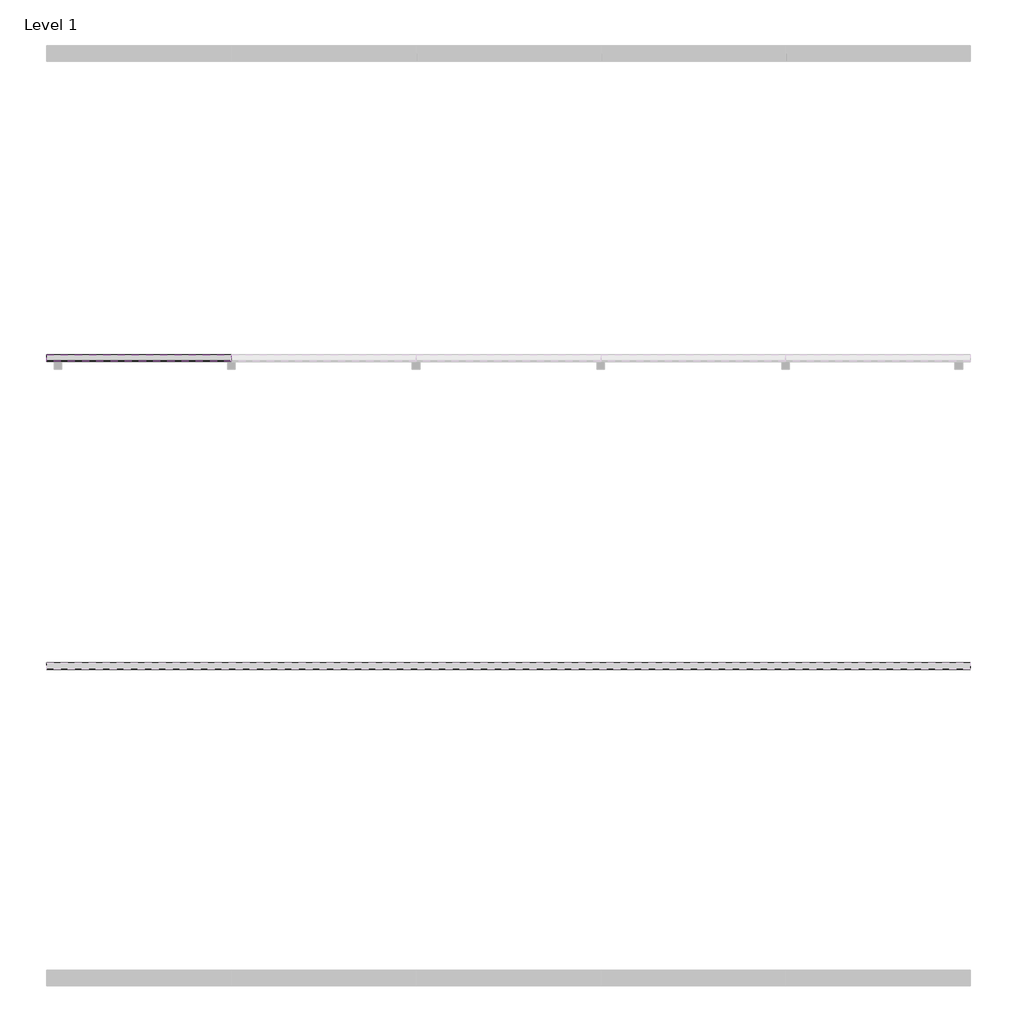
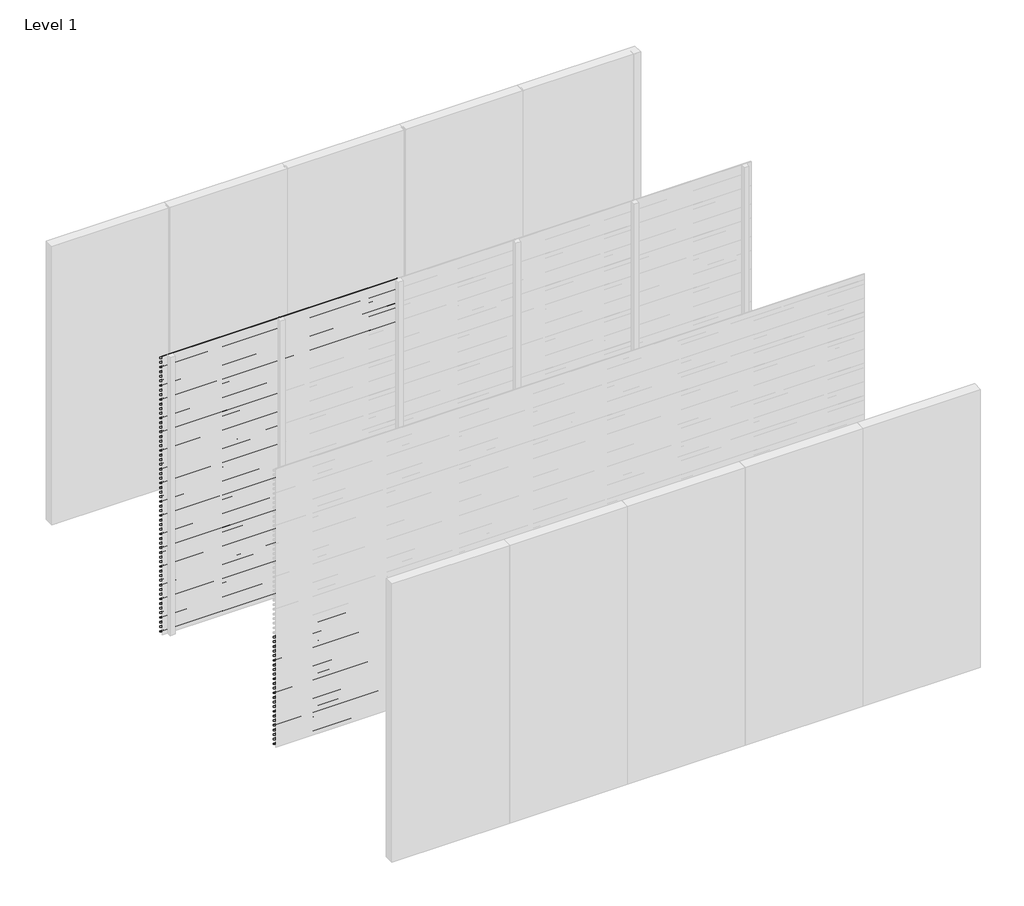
# One storey, part 6 of 16: 94 proxies.
"""IFC4 building model written with IfcOpenShell, lengths in millimetres."""

import ifcopenshell
import ifcopenshell.guid

model = None  # the IFC model being written
_history = None  # IfcOwnerHistory: only IFC2X3 demands one
_inside = {}  # id of a spatial element -> (the spatial element, [elements in it])
_under = {}  # id of a project, library or spatial element -> (it, [spatial elements below it])
_declared = {}  # id of a project -> (the project, [libraries it declares])
_typed = {}  # id of a type object -> (the type object, [elements of that type])
_made_of = {}  # id of a material, layer set ... -> (it, [elements and type objects made of it])


def new_model(schema):
    """Start an empty IFC model of exactly this schema.

    Asked for "IFC4X3", IfcOpenShell would pick the latest addendum, in which some entities
    have other attributes; the version numbers below select the first issue.
    IFC2X3 requires an IfcOwnerHistory on every rooted entity: one is made here for all.
    """
    global model, _history
    if schema == "IFC4X3":
        model = ifcopenshell.file(schema_version=(4, 3, 0, 0))
    else:
        model = ifcopenshell.file(schema=schema)
    _inside.clear()
    _under.clear()
    _declared.clear()
    _typed.clear()
    _made_of.clear()
    _history = None
    if model.schema == "IFC2X3":
        org = make("IfcOrganization", Name="unknown")
        user = make(
            "IfcPersonAndOrganization",
            ThePerson=make("IfcPerson", FamilyName="unknown"),
            TheOrganization=org,
        )
        app = make(
            "IfcApplication",
            ApplicationDeveloper=org,
            Version="unknown",
            ApplicationFullName="unknown",
            ApplicationIdentifier="unknown",
        )
        _history = make(
            "IfcOwnerHistory",
            OwningUser=user,
            OwningApplication=app,
            ChangeAction="ADDED",
            CreationDate=0,
        )
    return model


def make(cls, **values):
    """One entity of the class cls with the attributes given. An attribute that is None is left unset."""
    return model.create_entity(
        cls, **{name: value for name, value in values.items() if value is not None}
    )


def rooted(cls, **values):
    """An entity with a GlobalId (a new one), such as an element, a storey or a relation."""
    return make(cls, GlobalId=ifcopenshell.guid.new(), OwnerHistory=_history, **values)


def si_unit(unit_type, name, prefix=None):
    """IfcSIUnit, for example si_unit("LENGTHUNIT", "METRE", prefix="MILLI")."""
    return make("IfcSIUnit", UnitType=unit_type, Prefix=prefix, Name=name)


def assignment(units):
    """IfcUnitAssignment: the units of a project."""
    return None if units is None else make("IfcUnitAssignment", Units=units)


def point(xyz):
    """IfcCartesianPoint."""
    return None if xyz is None else make("IfcCartesianPoint", Coordinates=xyz)


def direction(xyz):
    """IfcDirection."""
    return None if xyz is None else make("IfcDirection", DirectionRatios=xyz)


def frame(location, z_axis=None, x_axis=None):
    """IfcAxis2Placement3D, a coordinate frame: its origin and axes. An axis left out is left unset."""
    return make(
        "IfcAxis2Placement3D",
        Location=point(location),
        Axis=direction(z_axis),
        RefDirection=direction(x_axis),
    )


def origin():
    """The frame at (0, 0, 0) with its axes left unset."""
    return frame((0.0, 0.0, 0.0))


def place(relative_to, where):
    """IfcLocalPlacement: puts the frame where relative to a parent placement (None: the world)."""
    return make(
        "IfcLocalPlacement", PlacementRelTo=relative_to, RelativePlacement=where
    )


def context(
    kind, dimensions, precision=None, world=None, true_north=None, identifier=None
):
    """IfcGeometricRepresentationContext, for example the 3D "Model" context."""
    return make(
        "IfcGeometricRepresentationContext",
        ContextIdentifier=identifier,
        ContextType=kind,
        CoordinateSpaceDimension=dimensions,
        Precision=precision,
        WorldCoordinateSystem=world,
        TrueNorth=true_north,
    )


def project(units=None, contexts=None):
    """IfcProject with its units and contexts."""
    return rooted(
        "IfcProject",
        Name="project",
        RepresentationContexts=contexts,
        UnitsInContext=assignment(units),
    )


def spatial(cls, under=None, at=None, **own):
    """A site, building, storey or space (cls), placed at a placement, below another one or the project."""
    s = rooted(cls, ObjectPlacement=at, **own)
    if under is not None:
        _under.setdefault(under.id(), (under, []))[1].append(s)
    return s


def polyline(points):
    """IfcPolyline through the points."""
    return make("IfcPolyline", Points=[point(p) for p in points])


def outline(outer, holes=None, kind="AREA"):
    """IfcArbitraryClosedProfileDef: a profile drawn as a closed curve; with holes, ...WithVoids."""
    if holes is None:
        return make("IfcArbitraryClosedProfileDef", ProfileType=kind, OuterCurve=outer)
    return make(
        "IfcArbitraryProfileDefWithVoids",
        ProfileType=kind,
        OuterCurve=outer,
        InnerCurves=holes,
    )


def extrude(swept, where, along, depth):
    """IfcExtrudedAreaSolid: the profile swept, set in the frame where, extruded along a direction by depth."""
    return make(
        "IfcExtrudedAreaSolid",
        SweptArea=swept,
        Position=where,
        ExtrudedDirection=direction(along),
        Depth=depth,
    )


def shape(context_of_items, identifier, shape_type, items):
    """IfcShapeRepresentation: the items that make up one representation, for example the "Body"."""
    return make(
        "IfcShapeRepresentation",
        ContextOfItems=context_of_items,
        RepresentationIdentifier=identifier,
        RepresentationType=shape_type,
        Items=items,
    )


def made_of(thing, what):
    """Note that an element or type object is made of a material, layer set ...; save() writes the relation."""
    if what is not None:
        _made_of.setdefault(what.id(), (what, []))[1].append(thing)
    return thing


def element(
    cls,
    number,
    at=None,
    inside=None,
    cuts=None,
    type_object=None,
    material=None,
    context=None,
    identifier="Body",
    shape_type=None,
    held_by="IfcProductDefinitionShape",
    body=None,
    shapes=None,
    **own,
):
    """One element of the class cls, such as IfcWall. Its Tag is "e" and its number.

    at: its placement. inside: the storey or other place that contains it. cuts: it is an
    opening in that element (IfcRelVoidsElement). A single representation is given by context,
    identifier, shape_type and body (its items); several are given by shapes. held_by: the class
    of the entity that holds the representations. save() writes the other relations.
    """
    e = rooted(cls, Tag="e%d" % number, ObjectPlacement=at, **own)
    if body is not None:
        shapes = [shape(context, identifier, shape_type, body)]
    if shapes is not None:
        e.Representation = make(held_by, Representations=shapes)
    if inside is not None:
        _inside.setdefault(inside.id(), (inside, []))[1].append(e)
    if cuts is not None:
        rooted(
            "IfcRelVoidsElement", RelatingBuildingElement=cuts, RelatedOpeningElement=e
        )
    if type_object is not None:
        _typed.setdefault(type_object.id(), (type_object, []))[1].append(e)
    return made_of(e, material)


def aggregate(whole, parts):
    """IfcRelAggregates: a whole, such as a stair, and the parts it consists of."""
    return rooted("IfcRelAggregates", RelatingObject=whole, RelatedObjects=parts)


def save(model, path):
    """Write the relations noted so far, then the file.

    IfcRelAggregates (storeys below a building ...), IfcRelContainedInSpatialStructure (elements
    in a storey), IfcRelDefinesByType, IfcRelAssociatesMaterial and IfcRelDeclares: one each for
    every whole, place, type object, material and project.
    """
    for whole, parts in _under.values():
        aggregate(whole, parts)
    for where, things in _inside.values():
        rooted(
            "IfcRelContainedInSpatialStructure",
            RelatedElements=things,
            RelatingStructure=where,
        )
    for kind, things in _typed.values():
        rooted("IfcRelDefinesByType", RelatedObjects=things, RelatingType=kind)
    for what, things in _made_of.values():
        rooted("IfcRelAssociatesMaterial", RelatedObjects=things, RelatingMaterial=what)
    for by, libraries in _declared.values():
        rooted("IfcRelDeclares", RelatingContext=by, RelatedDefinitions=libraries)
    model.write(path)


model = new_model("IFC4")

# Units and contexts
model_context = context("Model", 3, world=origin())
ifc_project = project(units=[si_unit("LENGTHUNIT", "METRE", prefix="MILLI")], contexts=[model_context])

# Site, building, storey
site = spatial("IfcSite", under=ifc_project)
building = spatial("IfcBuilding", under=site)
storey = spatial("IfcBuildingStorey", under=building, Name="Level 1", Elevation=0.0)

# Proxies
placement = place(None, origin())
element("IfcBuildingElementProxy", 1, Name="Wall Sweeps", at=placement, inside=storey, context=model_context, shape_type="SweptSolid", body=[
    extrude(outline(polyline([(-11995.0, 3000.0), (-11995.0, 2989.6352854), (-11954.0, 2965.0), (-11954.0, 2950.0), (-11997.0, 2975.8370066), (-11997.0, 3000.0), (-11995.0, 3000.0)])), frame((0.0, 0.0, 0.0), z_axis=(1.0, 0.0, 0.0), x_axis=(0.0, 1.0, 0.0)), (0.0, 0.0, 1.0), 1200.0),
])
element("IfcBuildingElementProxy", 2, Name="Wall Sweeps", at=placement, inside=storey, context=model_context, shape_type="SweptSolid", body=[
    extrude(outline(polyline([(-11995.0, 2950.0), (-11995.0, 2939.6352854), (-11954.0, 2915.0), (-11954.0, 2900.0), (-11997.0, 2925.8370066), (-11997.0, 2950.0), (-11995.0, 2950.0)])), frame((0.0, 0.0, 0.0), z_axis=(1.0, 0.0, 0.0), x_axis=(0.0, 1.0, 0.0)), (0.0, 0.0, 1.0), 1200.0),
])
element("IfcBuildingElementProxy", 3, Name="Wall Sweeps", at=placement, inside=storey, context=model_context, shape_type="SweptSolid", body=[
    extrude(outline(polyline([(-11995.0, 2900.0), (-11995.0, 2889.6352854), (-11954.0, 2865.0), (-11954.0, 2850.0), (-11997.0, 2875.8370066), (-11997.0, 2900.0), (-11995.0, 2900.0)])), frame((0.0, 0.0, 0.0), z_axis=(1.0, 0.0, 0.0), x_axis=(0.0, 1.0, 0.0)), (0.0, 0.0, 1.0), 1200.0),
])
element("IfcBuildingElementProxy", 4, Name="Wall Sweeps", at=placement, inside=storey, context=model_context, shape_type="SweptSolid", body=[
    extrude(outline(polyline([(-11995.0, 2850.0), (-11995.0, 2839.6352854), (-11954.0, 2815.0), (-11954.0, 2800.0), (-11997.0, 2825.8370066), (-11997.0, 2850.0), (-11995.0, 2850.0)])), frame((0.0, 0.0, 0.0), z_axis=(1.0, 0.0, 0.0), x_axis=(0.0, 1.0, 0.0)), (0.0, 0.0, 1.0), 1200.0),
])
element("IfcBuildingElementProxy", 5, Name="Wall Sweeps", at=placement, inside=storey, context=model_context, shape_type="SweptSolid", body=[
    extrude(outline(polyline([(-11995.0, 2800.0), (-11995.0, 2789.6352854), (-11954.0, 2765.0), (-11954.0, 2750.0), (-11997.0, 2775.8370066), (-11997.0, 2800.0), (-11995.0, 2800.0)])), frame((0.0, 0.0, 0.0), z_axis=(1.0, 0.0, 0.0), x_axis=(0.0, 1.0, 0.0)), (0.0, 0.0, 1.0), 1200.0),
])
element("IfcBuildingElementProxy", 6, Name="Wall Sweeps", at=placement, inside=storey, context=model_context, shape_type="SweptSolid", body=[
    extrude(outline(polyline([(-11995.0, 2750.0), (-11995.0, 2739.6352854), (-11954.0, 2715.0), (-11954.0, 2700.0), (-11997.0, 2725.8370066), (-11997.0, 2750.0), (-11995.0, 2750.0)])), frame((0.0, 0.0, 0.0), z_axis=(1.0, 0.0, 0.0), x_axis=(0.0, 1.0, 0.0)), (0.0, 0.0, 1.0), 1200.0),
])
element("IfcBuildingElementProxy", 7, Name="Wall Sweeps", at=placement, inside=storey, context=model_context, shape_type="SweptSolid", body=[
    extrude(outline(polyline([(-11995.0, 2700.0), (-11995.0, 2689.6352854), (-11954.0, 2665.0), (-11954.0, 2650.0), (-11997.0, 2675.8370066), (-11997.0, 2700.0), (-11995.0, 2700.0)])), frame((0.0, 0.0, 0.0), z_axis=(1.0, 0.0, 0.0), x_axis=(0.0, 1.0, 0.0)), (0.0, 0.0, 1.0), 1200.0),
])
element("IfcBuildingElementProxy", 8, Name="Wall Sweeps", at=placement, inside=storey, context=model_context, shape_type="SweptSolid", body=[
    extrude(outline(polyline([(-11995.0, 2650.0), (-11995.0, 2639.6352854), (-11954.0, 2615.0), (-11954.0, 2600.0), (-11997.0, 2625.8370066), (-11997.0, 2650.0), (-11995.0, 2650.0)])), frame((0.0, 0.0, 0.0), z_axis=(1.0, 0.0, 0.0), x_axis=(0.0, 1.0, 0.0)), (0.0, 0.0, 1.0), 1200.0),
])
element("IfcBuildingElementProxy", 9, Name="Wall Sweeps", at=placement, inside=storey, context=model_context, shape_type="SweptSolid", body=[
    extrude(outline(polyline([(-11995.0, 2600.0), (-11995.0, 2589.6352854), (-11954.0, 2565.0), (-11954.0, 2550.0), (-11997.0, 2575.8370066), (-11997.0, 2600.0), (-11995.0, 2600.0)])), frame((0.0, 0.0, 0.0), z_axis=(1.0, 0.0, 0.0), x_axis=(0.0, 1.0, 0.0)), (0.0, 0.0, 1.0), 1200.0),
])
element("IfcBuildingElementProxy", 10, Name="Wall Sweeps", at=placement, inside=storey, context=model_context, shape_type="SweptSolid", body=[
    extrude(outline(polyline([(-11995.0, 2550.0), (-11995.0, 2539.6352854), (-11954.0, 2515.0), (-11954.0, 2500.0), (-11997.0, 2525.8370066), (-11997.0, 2550.0), (-11995.0, 2550.0)])), frame((0.0, 0.0, 0.0), z_axis=(1.0, 0.0, 0.0), x_axis=(0.0, 1.0, 0.0)), (0.0, 0.0, 1.0), 1200.0),
])
element("IfcBuildingElementProxy", 11, Name="Wall Sweeps", at=placement, inside=storey, context=model_context, shape_type="SweptSolid", body=[
    extrude(outline(polyline([(-11995.0, 2500.0), (-11995.0, 2489.6352854), (-11954.0, 2465.0), (-11954.0, 2450.0), (-11997.0, 2475.8370066), (-11997.0, 2500.0), (-11995.0, 2500.0)])), frame((0.0, 0.0, 0.0), z_axis=(1.0, 0.0, 0.0), x_axis=(0.0, 1.0, 0.0)), (0.0, 0.0, 1.0), 1200.0),
])
element("IfcBuildingElementProxy", 12, Name="Wall Sweeps", at=placement, inside=storey, context=model_context, shape_type="SweptSolid", body=[
    extrude(outline(polyline([(-11995.0, 2450.0), (-11995.0, 2439.6352854), (-11954.0, 2415.0), (-11954.0, 2400.0), (-11997.0, 2425.8370066), (-11997.0, 2450.0), (-11995.0, 2450.0)])), frame((0.0, 0.0, 0.0), z_axis=(1.0, 0.0, 0.0), x_axis=(0.0, 1.0, 0.0)), (0.0, 0.0, 1.0), 1200.0),
])
element("IfcBuildingElementProxy", 13, Name="Wall Sweeps", at=placement, inside=storey, context=model_context, shape_type="SweptSolid", body=[
    extrude(outline(polyline([(-11995.0, 2400.0), (-11995.0, 2389.6352854), (-11954.0, 2365.0), (-11954.0, 2350.0), (-11997.0, 2375.8370066), (-11997.0, 2400.0), (-11995.0, 2400.0)])), frame((0.0, 0.0, 0.0), z_axis=(1.0, 0.0, 0.0), x_axis=(0.0, 1.0, 0.0)), (0.0, 0.0, 1.0), 1200.0),
])
element("IfcBuildingElementProxy", 14, Name="Wall Sweeps", at=placement, inside=storey, context=model_context, shape_type="SweptSolid", body=[
    extrude(outline(polyline([(-11995.0, 2350.0), (-11995.0, 2339.6352854), (-11954.0, 2315.0), (-11954.0, 2300.0), (-11997.0, 2325.8370066), (-11997.0, 2350.0), (-11995.0, 2350.0)])), frame((0.0, 0.0, 0.0), z_axis=(1.0, 0.0, 0.0), x_axis=(0.0, 1.0, 0.0)), (0.0, 0.0, 1.0), 1200.0),
])
element("IfcBuildingElementProxy", 15, Name="Wall Sweeps", at=placement, inside=storey, context=model_context, shape_type="SweptSolid", body=[
    extrude(outline(polyline([(-11995.0, 2300.0), (-11995.0, 2289.6352854), (-11954.0, 2265.0), (-11954.0, 2250.0), (-11997.0, 2275.8370066), (-11997.0, 2300.0), (-11995.0, 2300.0)])), frame((0.0, 0.0, 0.0), z_axis=(1.0, 0.0, 0.0), x_axis=(0.0, 1.0, 0.0)), (0.0, 0.0, 1.0), 1200.0),
])
element("IfcBuildingElementProxy", 16, Name="Wall Sweeps", at=placement, inside=storey, context=model_context, shape_type="SweptSolid", body=[
    extrude(outline(polyline([(-11995.0, 2250.0), (-11995.0, 2239.6352854), (-11954.0, 2215.0), (-11954.0, 2200.0), (-11997.0, 2225.8370066), (-11997.0, 2250.0), (-11995.0, 2250.0)])), frame((0.0, 0.0, 0.0), z_axis=(1.0, 0.0, 0.0), x_axis=(0.0, 1.0, 0.0)), (0.0, 0.0, 1.0), 1200.0),
])
element("IfcBuildingElementProxy", 17, Name="Wall Sweeps", at=placement, inside=storey, context=model_context, shape_type="SweptSolid", body=[
    extrude(outline(polyline([(-11995.0, 2200.0), (-11995.0, 2189.6352854), (-11954.0, 2165.0), (-11954.0, 2150.0), (-11997.0, 2175.8370066), (-11997.0, 2200.0), (-11995.0, 2200.0)])), frame((0.0, 0.0, 0.0), z_axis=(1.0, 0.0, 0.0), x_axis=(0.0, 1.0, 0.0)), (0.0, 0.0, 1.0), 1200.0),
])
element("IfcBuildingElementProxy", 18, Name="Wall Sweeps", at=placement, inside=storey, context=model_context, shape_type="SweptSolid", body=[
    extrude(outline(polyline([(-11995.0, 2150.0), (-11995.0, 2139.6352854), (-11954.0, 2115.0), (-11954.0, 2100.0), (-11997.0, 2125.8370066), (-11997.0, 2150.0), (-11995.0, 2150.0)])), frame((0.0, 0.0, 0.0), z_axis=(1.0, 0.0, 0.0), x_axis=(0.0, 1.0, 0.0)), (0.0, 0.0, 1.0), 1200.0),
])
element("IfcBuildingElementProxy", 19, Name="Wall Sweeps", at=placement, inside=storey, context=model_context, shape_type="SweptSolid", body=[
    extrude(outline(polyline([(-11995.0, 2100.0), (-11995.0, 2089.6352854), (-11954.0, 2065.0), (-11954.0, 2050.0), (-11997.0, 2075.8370066), (-11997.0, 2100.0), (-11995.0, 2100.0)])), frame((0.0, 0.0, 0.0), z_axis=(1.0, 0.0, 0.0), x_axis=(0.0, 1.0, 0.0)), (0.0, 0.0, 1.0), 1200.0),
])
element("IfcBuildingElementProxy", 20, Name="Wall Sweeps", at=placement, inside=storey, context=model_context, shape_type="SweptSolid", body=[
    extrude(outline(polyline([(-11995.0, 2050.0), (-11995.0, 2039.6352854), (-11954.0, 2015.0), (-11954.0, 2000.0), (-11997.0, 2025.8370066), (-11997.0, 2050.0), (-11995.0, 2050.0)])), frame((0.0, 0.0, 0.0), z_axis=(1.0, 0.0, 0.0), x_axis=(0.0, 1.0, 0.0)), (0.0, 0.0, 1.0), 1200.0),
])
element("IfcBuildingElementProxy", 21, Name="Wall Sweeps", at=placement, inside=storey, context=model_context, shape_type="SweptSolid", body=[
    extrude(outline(polyline([(-11995.0, 2000.0), (-11995.0, 1989.6352854), (-11954.0, 1965.0), (-11954.0, 1950.0), (-11997.0, 1975.8370066), (-11997.0, 2000.0), (-11995.0, 2000.0)])), frame((0.0, 0.0, 0.0), z_axis=(1.0, 0.0, 0.0), x_axis=(0.0, 1.0, 0.0)), (0.0, 0.0, 1.0), 1200.0),
])
element("IfcBuildingElementProxy", 22, Name="Wall Sweeps", at=placement, inside=storey, context=model_context, shape_type="SweptSolid", body=[
    extrude(outline(polyline([(-11995.0, 1950.0), (-11995.0, 1939.6352854), (-11954.0, 1915.0), (-11954.0, 1900.0), (-11997.0, 1925.8370066), (-11997.0, 1950.0), (-11995.0, 1950.0)])), frame((0.0, 0.0, 0.0), z_axis=(1.0, 0.0, 0.0), x_axis=(0.0, 1.0, 0.0)), (0.0, 0.0, 1.0), 1200.0),
])
element("IfcBuildingElementProxy", 23, Name="Wall Sweeps", at=placement, inside=storey, context=model_context, shape_type="SweptSolid", body=[
    extrude(outline(polyline([(-11995.0, 1900.0), (-11995.0, 1889.6352854), (-11954.0, 1865.0), (-11954.0, 1850.0), (-11997.0, 1875.8370066), (-11997.0, 1900.0), (-11995.0, 1900.0)])), frame((0.0, 0.0, 0.0), z_axis=(1.0, 0.0, 0.0), x_axis=(0.0, 1.0, 0.0)), (0.0, 0.0, 1.0), 1200.0),
])
element("IfcBuildingElementProxy", 24, Name="Wall Sweeps", at=placement, inside=storey, context=model_context, shape_type="SweptSolid", body=[
    extrude(outline(polyline([(-11995.0, 1850.0), (-11995.0, 1839.6352854), (-11954.0, 1815.0), (-11954.0, 1800.0), (-11997.0, 1825.8370066), (-11997.0, 1850.0), (-11995.0, 1850.0)])), frame((0.0, 0.0, 0.0), z_axis=(1.0, 0.0, 0.0), x_axis=(0.0, 1.0, 0.0)), (0.0, 0.0, 1.0), 1200.0),
])
element("IfcBuildingElementProxy", 25, Name="Wall Sweeps", at=placement, inside=storey, context=model_context, shape_type="SweptSolid", body=[
    extrude(outline(polyline([(-11995.0, 1800.0), (-11995.0, 1789.6352854), (-11954.0, 1765.0), (-11954.0, 1750.0), (-11997.0, 1775.8370066), (-11997.0, 1800.0), (-11995.0, 1800.0)])), frame((0.0, 0.0, 0.0), z_axis=(1.0, 0.0, 0.0), x_axis=(0.0, 1.0, 0.0)), (0.0, 0.0, 1.0), 1200.0),
])
element("IfcBuildingElementProxy", 26, Name="Wall Sweeps", at=placement, inside=storey, context=model_context, shape_type="SweptSolid", body=[
    extrude(outline(polyline([(-11995.0, 1750.0), (-11995.0, 1739.6352854), (-11954.0, 1715.0), (-11954.0, 1700.0), (-11997.0, 1725.8370066), (-11997.0, 1750.0), (-11995.0, 1750.0)])), frame((0.0, 0.0, 0.0), z_axis=(1.0, 0.0, 0.0), x_axis=(0.0, 1.0, 0.0)), (0.0, 0.0, 1.0), 1200.0),
])
element("IfcBuildingElementProxy", 27, Name="Wall Sweeps", at=placement, inside=storey, context=model_context, shape_type="SweptSolid", body=[
    extrude(outline(polyline([(-11995.0, 1700.0), (-11995.0, 1689.6352854), (-11954.0, 1665.0), (-11954.0, 1650.0), (-11997.0, 1675.8370066), (-11997.0, 1700.0), (-11995.0, 1700.0)])), frame((0.0, 0.0, 0.0), z_axis=(1.0, 0.0, 0.0), x_axis=(0.0, 1.0, 0.0)), (0.0, 0.0, 1.0), 1200.0),
])
element("IfcBuildingElementProxy", 28, Name="Wall Sweeps", at=placement, inside=storey, context=model_context, shape_type="SweptSolid", body=[
    extrude(outline(polyline([(-11995.0, 1650.0), (-11995.0, 1639.6352854), (-11954.0, 1615.0), (-11954.0, 1600.0), (-11997.0, 1625.8370066), (-11997.0, 1650.0), (-11995.0, 1650.0)])), frame((0.0, 0.0, 0.0), z_axis=(1.0, 0.0, 0.0), x_axis=(0.0, 1.0, 0.0)), (0.0, 0.0, 1.0), 1200.0),
])
element("IfcBuildingElementProxy", 29, Name="Wall Sweeps", at=placement, inside=storey, context=model_context, shape_type="SweptSolid", body=[
    extrude(outline(polyline([(-11995.0, 1600.0), (-11995.0, 1589.6352854), (-11954.0, 1565.0), (-11954.0, 1550.0), (-11997.0, 1575.8370066), (-11997.0, 1600.0), (-11995.0, 1600.0)])), frame((0.0, 0.0, 0.0), z_axis=(1.0, 0.0, 0.0), x_axis=(0.0, 1.0, 0.0)), (0.0, 0.0, 1.0), 1200.0),
])
element("IfcBuildingElementProxy", 30, Name="Wall Sweeps", at=placement, inside=storey, context=model_context, shape_type="SweptSolid", body=[
    extrude(outline(polyline([(-11995.0, 1550.0), (-11995.0, 1539.6352854), (-11954.0, 1515.0), (-11954.0, 1500.0), (-11997.0, 1525.8370066), (-11997.0, 1550.0), (-11995.0, 1550.0)])), frame((0.0, 0.0, 0.0), z_axis=(1.0, 0.0, 0.0), x_axis=(0.0, 1.0, 0.0)), (0.0, 0.0, 1.0), 1200.0),
])
element("IfcBuildingElementProxy", 31, Name="Wall Sweeps", at=placement, inside=storey, context=model_context, shape_type="SweptSolid", body=[
    extrude(outline(polyline([(-11995.0, 1500.0), (-11995.0, 1489.6352854), (-11954.0, 1465.0), (-11954.0, 1450.0), (-11997.0, 1475.8370066), (-11997.0, 1500.0), (-11995.0, 1500.0)])), frame((0.0, 0.0, 0.0), z_axis=(1.0, 0.0, 0.0), x_axis=(0.0, 1.0, 0.0)), (0.0, 0.0, 1.0), 1200.0),
])
element("IfcBuildingElementProxy", 32, Name="Wall Sweeps", at=placement, inside=storey, context=model_context, shape_type="SweptSolid", body=[
    extrude(outline(polyline([(-11995.0, 1450.0), (-11995.0, 1439.6352854), (-11954.0, 1415.0), (-11954.0, 1400.0), (-11997.0, 1425.8370066), (-11997.0, 1450.0), (-11995.0, 1450.0)])), frame((0.0, 0.0, 0.0), z_axis=(1.0, 0.0, 0.0), x_axis=(0.0, 1.0, 0.0)), (0.0, 0.0, 1.0), 1200.0),
])
element("IfcBuildingElementProxy", 33, Name="Wall Sweeps", at=placement, inside=storey, context=model_context, shape_type="SweptSolid", body=[
    extrude(outline(polyline([(-11995.0, 1400.0), (-11995.0, 1389.6352854), (-11954.0, 1365.0), (-11954.0, 1350.0), (-11997.0, 1375.8370066), (-11997.0, 1400.0), (-11995.0, 1400.0)])), frame((0.0, 0.0, 0.0), z_axis=(1.0, 0.0, 0.0), x_axis=(0.0, 1.0, 0.0)), (0.0, 0.0, 1.0), 1200.0),
])
element("IfcBuildingElementProxy", 34, Name="Wall Sweeps", at=placement, inside=storey, context=model_context, shape_type="SweptSolid", body=[
    extrude(outline(polyline([(-11995.0, 1350.0), (-11995.0, 1339.6352854), (-11954.0, 1315.0), (-11954.0, 1300.0), (-11997.0, 1325.8370066), (-11997.0, 1350.0), (-11995.0, 1350.0)])), frame((0.0, 0.0, 0.0), z_axis=(1.0, 0.0, 0.0), x_axis=(0.0, 1.0, 0.0)), (0.0, 0.0, 1.0), 1200.0),
])
element("IfcBuildingElementProxy", 35, Name="Wall Sweeps", at=placement, inside=storey, context=model_context, shape_type="SweptSolid", body=[
    extrude(outline(polyline([(-11995.0, 1300.0), (-11995.0, 1289.6352854), (-11954.0, 1265.0), (-11954.0, 1250.0), (-11997.0, 1275.8370066), (-11997.0, 1300.0), (-11995.0, 1300.0)])), frame((0.0, 0.0, 0.0), z_axis=(1.0, 0.0, 0.0), x_axis=(0.0, 1.0, 0.0)), (0.0, 0.0, 1.0), 1200.0),
])
element("IfcBuildingElementProxy", 36, Name="Wall Sweeps", at=placement, inside=storey, context=model_context, shape_type="SweptSolid", body=[
    extrude(outline(polyline([(-11995.0, 1250.0), (-11995.0, 1239.6352854), (-11954.0, 1215.0), (-11954.0, 1200.0), (-11997.0, 1225.8370066), (-11997.0, 1250.0), (-11995.0, 1250.0)])), frame((0.0, 0.0, 0.0), z_axis=(1.0, 0.0, 0.0), x_axis=(0.0, 1.0, 0.0)), (0.0, 0.0, 1.0), 1200.0),
])
element("IfcBuildingElementProxy", 37, Name="Wall Sweeps", at=placement, inside=storey, context=model_context, shape_type="SweptSolid", body=[
    extrude(outline(polyline([(-11995.0, 1200.0), (-11995.0, 1189.6352854), (-11954.0, 1165.0), (-11954.0, 1150.0), (-11997.0, 1175.8370066), (-11997.0, 1200.0), (-11995.0, 1200.0)])), frame((0.0, 0.0, 0.0), z_axis=(1.0, 0.0, 0.0), x_axis=(0.0, 1.0, 0.0)), (0.0, 0.0, 1.0), 1200.0),
])
element("IfcBuildingElementProxy", 38, Name="Wall Sweeps", at=placement, inside=storey, context=model_context, shape_type="SweptSolid", body=[
    extrude(outline(polyline([(-11995.0, 1150.0), (-11995.0, 1139.6352854), (-11954.0, 1115.0), (-11954.0, 1100.0), (-11997.0, 1125.8370066), (-11997.0, 1150.0), (-11995.0, 1150.0)])), frame((0.0, 0.0, 0.0), z_axis=(1.0, 0.0, 0.0), x_axis=(0.0, 1.0, 0.0)), (0.0, 0.0, 1.0), 1200.0),
])
element("IfcBuildingElementProxy", 39, Name="Wall Sweeps", at=placement, inside=storey, context=model_context, shape_type="SweptSolid", body=[
    extrude(outline(polyline([(-11995.0, 1100.0), (-11995.0, 1089.6352854), (-11954.0, 1065.0), (-11954.0, 1050.0), (-11997.0, 1075.8370066), (-11997.0, 1100.0), (-11995.0, 1100.0)])), frame((0.0, 0.0, 0.0), z_axis=(1.0, 0.0, 0.0), x_axis=(0.0, 1.0, 0.0)), (0.0, 0.0, 1.0), 1200.0),
])
element("IfcBuildingElementProxy", 40, Name="Wall Sweeps", at=placement, inside=storey, context=model_context, shape_type="SweptSolid", body=[
    extrude(outline(polyline([(-11995.0, 1050.0), (-11995.0, 1039.6352854), (-11954.0, 1015.0), (-11954.0, 1000.0), (-11997.0, 1025.8370066), (-11997.0, 1050.0), (-11995.0, 1050.0)])), frame((0.0, 0.0, 0.0), z_axis=(1.0, 0.0, 0.0), x_axis=(0.0, 1.0, 0.0)), (0.0, 0.0, 1.0), 1200.0),
])
element("IfcBuildingElementProxy", 41, Name="Wall Sweeps", at=placement, inside=storey, context=model_context, shape_type="SweptSolid", body=[
    extrude(outline(polyline([(-11995.0, 1000.0), (-11995.0, 989.6352854), (-11954.0, 965.0), (-11954.0, 950.0), (-11997.0, 975.8370066), (-11997.0, 1000.0), (-11995.0, 1000.0)])), frame((0.0, 0.0, 0.0), z_axis=(1.0, 0.0, 0.0), x_axis=(0.0, 1.0, 0.0)), (0.0, 0.0, 1.0), 1200.0),
])
element("IfcBuildingElementProxy", 42, Name="Wall Sweeps", at=placement, inside=storey, context=model_context, shape_type="SweptSolid", body=[
    extrude(outline(polyline([(-11995.0, 950.0), (-11995.0, 939.6352854), (-11954.0, 915.0), (-11954.0, 900.0), (-11997.0, 925.8370066), (-11997.0, 950.0), (-11995.0, 950.0)])), frame((0.0, 0.0, 0.0), z_axis=(1.0, 0.0, 0.0), x_axis=(0.0, 1.0, 0.0)), (0.0, 0.0, 1.0), 1200.0),
])
element("IfcBuildingElementProxy", 43, Name="Wall Sweeps", at=placement, inside=storey, context=model_context, shape_type="SweptSolid", body=[
    extrude(outline(polyline([(-11995.0, 900.0), (-11995.0, 889.6352854), (-11954.0, 865.0), (-11954.0, 850.0), (-11997.0, 875.8370066), (-11997.0, 900.0), (-11995.0, 900.0)])), frame((0.0, 0.0, 0.0), z_axis=(1.0, 0.0, 0.0), x_axis=(0.0, 1.0, 0.0)), (0.0, 0.0, 1.0), 1200.0),
])
element("IfcBuildingElementProxy", 44, Name="Wall Sweeps", at=placement, inside=storey, context=model_context, shape_type="SweptSolid", body=[
    extrude(outline(polyline([(-11995.0, 850.0), (-11995.0, 839.6352854), (-11954.0, 815.0), (-11954.0, 800.0), (-11997.0, 825.8370066), (-11997.0, 850.0), (-11995.0, 850.0)])), frame((0.0, 0.0, 0.0), z_axis=(1.0, 0.0, 0.0), x_axis=(0.0, 1.0, 0.0)), (0.0, 0.0, 1.0), 1200.0),
])
element("IfcBuildingElementProxy", 45, Name="Wall Sweeps", at=placement, inside=storey, context=model_context, shape_type="SweptSolid", body=[
    extrude(outline(polyline([(-11995.0, 800.0), (-11995.0, 789.6352854), (-11954.0, 765.0), (-11954.0, 750.0), (-11997.0, 775.8370066), (-11997.0, 800.0), (-11995.0, 800.0)])), frame((0.0, 0.0, 0.0), z_axis=(1.0, 0.0, 0.0), x_axis=(0.0, 1.0, 0.0)), (0.0, 0.0, 1.0), 1200.0),
])
element("IfcBuildingElementProxy", 46, Name="Wall Sweeps", at=placement, inside=storey, context=model_context, shape_type="SweptSolid", body=[
    extrude(outline(polyline([(-11995.0, 750.0), (-11995.0, 739.6352854), (-11954.0, 715.0), (-11954.0, 700.0), (-11997.0, 725.8370066), (-11997.0, 750.0), (-11995.0, 750.0)])), frame((0.0, 0.0, 0.0), z_axis=(1.0, 0.0, 0.0), x_axis=(0.0, 1.0, 0.0)), (0.0, 0.0, 1.0), 1200.0),
])
element("IfcBuildingElementProxy", 47, Name="Wall Sweeps", at=placement, inside=storey, context=model_context, shape_type="SweptSolid", body=[
    extrude(outline(polyline([(-11995.0, 700.0), (-11995.0, 689.6352854), (-11954.0, 665.0), (-11954.0, 650.0), (-11997.0, 675.8370066), (-11997.0, 700.0), (-11995.0, 700.0)])), frame((0.0, 0.0, 0.0), z_axis=(1.0, 0.0, 0.0), x_axis=(0.0, 1.0, 0.0)), (0.0, 0.0, 1.0), 1200.0),
])
element("IfcBuildingElementProxy", 48, Name="Wall Sweeps", at=placement, inside=storey, context=model_context, shape_type="SweptSolid", body=[
    extrude(outline(polyline([(-11995.0, 650.0), (-11995.0, 639.6352854), (-11954.0, 615.0), (-11954.0, 600.0), (-11997.0, 625.8370066), (-11997.0, 650.0), (-11995.0, 650.0)])), frame((0.0, 0.0, 0.0), z_axis=(1.0, 0.0, 0.0), x_axis=(0.0, 1.0, 0.0)), (0.0, 0.0, 1.0), 1200.0),
])
element("IfcBuildingElementProxy", 49, Name="Wall Sweeps", at=placement, inside=storey, context=model_context, shape_type="SweptSolid", body=[
    extrude(outline(polyline([(-11995.0, 600.0), (-11995.0, 589.6352854), (-11954.0, 565.0), (-11954.0, 550.0), (-11997.0, 575.8370066), (-11997.0, 600.0), (-11995.0, 600.0)])), frame((0.0, 0.0, 0.0), z_axis=(1.0, 0.0, 0.0), x_axis=(0.0, 1.0, 0.0)), (0.0, 0.0, 1.0), 1200.0),
])
element("IfcBuildingElementProxy", 50, Name="Wall Sweeps", at=placement, inside=storey, context=model_context, shape_type="SweptSolid", body=[
    extrude(outline(polyline([(-11995.0, 550.0), (-11995.0, 539.6352854), (-11954.0, 515.0), (-11954.0, 500.0), (-11997.0, 525.8370066), (-11997.0, 550.0), (-11995.0, 550.0)])), frame((0.0, 0.0, 0.0), z_axis=(1.0, 0.0, 0.0), x_axis=(0.0, 1.0, 0.0)), (0.0, 0.0, 1.0), 1200.0),
])
element("IfcBuildingElementProxy", 51, Name="Wall Sweeps", at=placement, inside=storey, context=model_context, shape_type="SweptSolid", body=[
    extrude(outline(polyline([(-11995.0, 500.0), (-11995.0, 489.6352854), (-11954.0, 465.0), (-11954.0, 450.0), (-11997.0, 475.8370066), (-11997.0, 500.0), (-11995.0, 500.0)])), frame((0.0, 0.0, 0.0), z_axis=(1.0, 0.0, 0.0), x_axis=(0.0, 1.0, 0.0)), (0.0, 0.0, 1.0), 1200.0),
])
element("IfcBuildingElementProxy", 52, Name="Wall Sweeps", at=placement, inside=storey, context=model_context, shape_type="SweptSolid", body=[
    extrude(outline(polyline([(-11995.0, 450.0), (-11995.0, 439.6352854), (-11954.0, 415.0), (-11954.0, 400.0), (-11997.0, 425.8370066), (-11997.0, 450.0), (-11995.0, 450.0)])), frame((0.0, 0.0, 0.0), z_axis=(1.0, 0.0, 0.0), x_axis=(0.0, 1.0, 0.0)), (0.0, 0.0, 1.0), 1200.0),
])
element("IfcBuildingElementProxy", 53, Name="Wall Sweeps", at=placement, inside=storey, context=model_context, shape_type="SweptSolid", body=[
    extrude(outline(polyline([(-11995.0, 400.0), (-11995.0, 389.6352854), (-11954.0, 365.0), (-11954.0, 350.0), (-11997.0, 375.8370066), (-11997.0, 400.0), (-11995.0, 400.0)])), frame((0.0, 0.0, 0.0), z_axis=(1.0, 0.0, 0.0), x_axis=(0.0, 1.0, 0.0)), (0.0, 0.0, 1.0), 1200.0),
])
element("IfcBuildingElementProxy", 54, Name="Wall Sweeps", at=placement, inside=storey, context=model_context, shape_type="SweptSolid", body=[
    extrude(outline(polyline([(-11995.0, 350.0), (-11995.0, 339.6352854), (-11954.0, 315.0), (-11954.0, 300.0), (-11997.0, 325.8370066), (-11997.0, 350.0), (-11995.0, 350.0)])), frame((0.0, 0.0, 0.0), z_axis=(1.0, 0.0, 0.0), x_axis=(0.0, 1.0, 0.0)), (0.0, 0.0, 1.0), 1200.0),
])
element("IfcBuildingElementProxy", 55, Name="Wall Sweeps", at=placement, inside=storey, context=model_context, shape_type="SweptSolid", body=[
    extrude(outline(polyline([(-11995.0, 300.0), (-11995.0, 289.6352854), (-11954.0, 265.0), (-11954.0, 250.0), (-11997.0, 275.8370066), (-11997.0, 300.0), (-11995.0, 300.0)])), frame((0.0, 0.0, 0.0), z_axis=(1.0, 0.0, 0.0), x_axis=(0.0, 1.0, 0.0)), (0.0, 0.0, 1.0), 1200.0),
])
element("IfcBuildingElementProxy", 56, Name="Wall Sweeps", at=placement, inside=storey, context=model_context, shape_type="SweptSolid", body=[
    extrude(outline(polyline([(-11995.0, 250.0), (-11995.0, 239.6352854), (-11954.0, 215.0), (-11954.0, 200.0), (-11997.0, 225.8370066), (-11997.0, 250.0), (-11995.0, 250.0)])), frame((0.0, 0.0, 0.0), z_axis=(1.0, 0.0, 0.0), x_axis=(0.0, 1.0, 0.0)), (0.0, 0.0, 1.0), 1200.0),
])
element("IfcBuildingElementProxy", 57, Name="Wall Sweeps", at=placement, inside=storey, context=model_context, shape_type="SweptSolid", body=[
    extrude(outline(polyline([(-11995.0, 200.0), (-11995.0, 189.6352854), (-11954.0, 165.0), (-11954.0, 150.0), (-11997.0, 175.8370066), (-11997.0, 200.0), (-11995.0, 200.0)])), frame((0.0, 0.0, 0.0), z_axis=(1.0, 0.0, 0.0), x_axis=(0.0, 1.0, 0.0)), (0.0, 0.0, 1.0), 1200.0),
])
element("IfcBuildingElementProxy", 58, Name="Wall Sweeps", at=placement, inside=storey, context=model_context, shape_type="SweptSolid", body=[
    extrude(outline(polyline([(-11995.0, 150.0), (-11995.0, 139.6352854), (-11954.0, 115.0), (-11954.0, 100.0), (-11997.0, 125.8370066), (-11997.0, 150.0), (-11995.0, 150.0)])), frame((0.0, 0.0, 0.0), z_axis=(1.0, 0.0, 0.0), x_axis=(0.0, 1.0, 0.0)), (0.0, 0.0, 1.0), 1200.0),
])
element("IfcBuildingElementProxy", 59, Name="Wall Sweeps", at=placement, inside=storey, context=model_context, shape_type="SweptSolid", body=[
    extrude(outline(polyline([(-11995.0, 100.0), (-11995.0, 89.6352854), (-11954.0, 65.0), (-11954.0, 50.0), (-11997.0, 75.8370066), (-11997.0, 100.0), (-11995.0, 100.0)])), frame((0.0, 0.0, 0.0), z_axis=(1.0, 0.0, 0.0), x_axis=(0.0, 1.0, 0.0)), (0.0, 0.0, 1.0), 1200.0),
])
element("IfcBuildingElementProxy", 60, Name="Wall Sweeps", at=placement, inside=storey, context=model_context, shape_type="SweptSolid", body=[
    extrude(outline(polyline([(-11995.0, 50.0), (-11995.0, 39.6352854), (-11954.0, 15.0), (-11954.0, 0.0), (-11997.0, 25.8370066), (-11997.0, 50.0), (-11995.0, 50.0)])), frame((0.0, 0.0, 0.0), z_axis=(1.0, 0.0, 0.0), x_axis=(0.0, 1.0, 0.0)), (0.0, 0.0, 1.0), 1200.0),
])
element("IfcBuildingElementProxy", 61, Name="Wall Sweeps", at=placement, inside=storey, context=model_context, shape_type="SweptSolid", body=[
    extrude(outline(polyline([(-11995.0, 3000.0), (-11995.0, 2989.6352854), (-11954.0, 2965.0), (-11954.0, 2950.0), (-11997.0, 2975.8370066), (-11997.0, 3000.0), (-11995.0, 3000.0)])), frame((1200.0, 0.0, 0.0), z_axis=(1.0, 0.0, 0.0), x_axis=(0.0, 1.0, 0.0)), (0.0, 0.0, 1.0), 1200.0),
])
element("IfcBuildingElementProxy", 62, Name="Wall Sweeps", at=placement, inside=storey, context=model_context, shape_type="SweptSolid", body=[
    extrude(outline(polyline([(-11995.0, 2950.0), (-11995.0, 2939.6352854), (-11954.0, 2915.0), (-11954.0, 2900.0), (-11997.0, 2925.8370066), (-11997.0, 2950.0), (-11995.0, 2950.0)])), frame((1200.0, 0.0, 0.0), z_axis=(1.0, 0.0, 0.0), x_axis=(0.0, 1.0, 0.0)), (0.0, 0.0, 1.0), 1200.0),
])
element("IfcBuildingElementProxy", 63, Name="Wall Sweeps", at=placement, inside=storey, context=model_context, shape_type="SweptSolid", body=[
    extrude(outline(polyline([(-11995.0, 2900.0), (-11995.0, 2889.6352854), (-11954.0, 2865.0), (-11954.0, 2850.0), (-11997.0, 2875.8370066), (-11997.0, 2900.0), (-11995.0, 2900.0)])), frame((1200.0, 0.0, 0.0), z_axis=(1.0, 0.0, 0.0), x_axis=(0.0, 1.0, 0.0)), (0.0, 0.0, 1.0), 1200.0),
])
element("IfcBuildingElementProxy", 64, Name="Wall Sweeps", at=placement, inside=storey, context=model_context, shape_type="SweptSolid", body=[
    extrude(outline(polyline([(-11995.0, 2850.0), (-11995.0, 2839.6352854), (-11954.0, 2815.0), (-11954.0, 2800.0), (-11997.0, 2825.8370066), (-11997.0, 2850.0), (-11995.0, 2850.0)])), frame((1200.0, 0.0, 0.0), z_axis=(1.0, 0.0, 0.0), x_axis=(0.0, 1.0, 0.0)), (0.0, 0.0, 1.0), 1200.0),
])
element("IfcBuildingElementProxy", 65, Name="Wall Sweeps", at=placement, inside=storey, context=model_context, shape_type="SweptSolid", body=[
    extrude(outline(polyline([(-11995.0, 2800.0), (-11995.0, 2789.6352854), (-11954.0, 2765.0), (-11954.0, 2750.0), (-11997.0, 2775.8370066), (-11997.0, 2800.0), (-11995.0, 2800.0)])), frame((1200.0, 0.0, 0.0), z_axis=(1.0, 0.0, 0.0), x_axis=(0.0, 1.0, 0.0)), (0.0, 0.0, 1.0), 1200.0),
])
element("IfcBuildingElementProxy", 66, Name="Wall Sweeps", at=placement, inside=storey, context=model_context, shape_type="SweptSolid", body=[
    extrude(outline(polyline([(-11995.0, 2750.0), (-11995.0, 2739.6352854), (-11954.0, 2715.0), (-11954.0, 2700.0), (-11997.0, 2725.8370066), (-11997.0, 2750.0), (-11995.0, 2750.0)])), frame((1200.0, 0.0, 0.0), z_axis=(1.0, 0.0, 0.0), x_axis=(0.0, 1.0, 0.0)), (0.0, 0.0, 1.0), 1200.0),
])
element("IfcBuildingElementProxy", 67, Name="Wall Sweeps", at=placement, inside=storey, context=model_context, shape_type="SweptSolid", body=[
    extrude(outline(polyline([(-11995.0, 2700.0), (-11995.0, 2689.6352854), (-11954.0, 2665.0), (-11954.0, 2650.0), (-11997.0, 2675.8370066), (-11997.0, 2700.0), (-11995.0, 2700.0)])), frame((1200.0, 0.0, 0.0), z_axis=(1.0, 0.0, 0.0), x_axis=(0.0, 1.0, 0.0)), (0.0, 0.0, 1.0), 1200.0),
])
element("IfcBuildingElementProxy", 68, Name="Wall Sweeps", at=placement, inside=storey, context=model_context, shape_type="SweptSolid", body=[
    extrude(outline(polyline([(-11995.0, 2650.0), (-11995.0, 2639.6352854), (-11954.0, 2615.0), (-11954.0, 2600.0), (-11997.0, 2625.8370066), (-11997.0, 2650.0), (-11995.0, 2650.0)])), frame((1200.0, 0.0, 0.0), z_axis=(1.0, 0.0, 0.0), x_axis=(0.0, 1.0, 0.0)), (0.0, 0.0, 1.0), 1200.0),
])
element("IfcBuildingElementProxy", 69, Name="Wall Sweeps", at=placement, inside=storey, context=model_context, shape_type="SweptSolid", body=[
    extrude(outline(polyline([(-11995.0, 2600.0), (-11995.0, 2589.6352854), (-11954.0, 2565.0), (-11954.0, 2550.0), (-11997.0, 2575.8370066), (-11997.0, 2600.0), (-11995.0, 2600.0)])), frame((1200.0, 0.0, 0.0), z_axis=(1.0, 0.0, 0.0), x_axis=(0.0, 1.0, 0.0)), (0.0, 0.0, 1.0), 1200.0),
])
element("IfcBuildingElementProxy", 70, Name="Wall Sweeps", at=placement, inside=storey, context=model_context, shape_type="SweptSolid", body=[
    extrude(outline(polyline([(-11995.0, 2550.0), (-11995.0, 2539.6352854), (-11954.0, 2515.0), (-11954.0, 2500.0), (-11997.0, 2525.8370066), (-11997.0, 2550.0), (-11995.0, 2550.0)])), frame((1200.0, 0.0, 0.0), z_axis=(1.0, 0.0, 0.0), x_axis=(0.0, 1.0, 0.0)), (0.0, 0.0, 1.0), 1200.0),
])
element("IfcBuildingElementProxy", 71, Name="Wall Sweeps", at=placement, inside=storey, context=model_context, shape_type="SweptSolid", body=[
    extrude(outline(polyline([(-13995.0, 1200.0), (-13995.0, 1189.6352854), (-13954.0, 1165.0), (-13954.0, 1150.0), (-13997.0, 1175.8370066), (-13997.0, 1200.0), (-13995.0, 1200.0)])), frame((0.0, 0.0, 0.0), z_axis=(1.0, 0.0, 0.0), x_axis=(0.0, 1.0, 0.0)), (0.0, 0.0, 1.0), 6000.0),
])
element("IfcBuildingElementProxy", 72, Name="Wall Sweeps", at=placement, inside=storey, context=model_context, shape_type="SweptSolid", body=[
    extrude(outline(polyline([(-13995.0, 1150.0), (-13995.0, 1139.6352854), (-13954.0, 1115.0), (-13954.0, 1100.0), (-13997.0, 1125.8370066), (-13997.0, 1150.0), (-13995.0, 1150.0)])), frame((0.0, 0.0, 0.0), z_axis=(1.0, 0.0, 0.0), x_axis=(0.0, 1.0, 0.0)), (0.0, 0.0, 1.0), 6000.0),
])
element("IfcBuildingElementProxy", 73, Name="Wall Sweeps", at=placement, inside=storey, context=model_context, shape_type="SweptSolid", body=[
    extrude(outline(polyline([(-13995.0, 1100.0), (-13995.0, 1089.6352854), (-13954.0, 1065.0), (-13954.0, 1050.0), (-13997.0, 1075.8370066), (-13997.0, 1100.0), (-13995.0, 1100.0)])), frame((0.0, 0.0, 0.0), z_axis=(1.0, 0.0, 0.0), x_axis=(0.0, 1.0, 0.0)), (0.0, 0.0, 1.0), 6000.0),
])
element("IfcBuildingElementProxy", 74, Name="Wall Sweeps", at=placement, inside=storey, context=model_context, shape_type="SweptSolid", body=[
    extrude(outline(polyline([(-13995.0, 1050.0), (-13995.0, 1039.6352854), (-13954.0, 1015.0), (-13954.0, 1000.0), (-13997.0, 1025.8370066), (-13997.0, 1050.0), (-13995.0, 1050.0)])), frame((0.0, 0.0, 0.0), z_axis=(1.0, 0.0, 0.0), x_axis=(0.0, 1.0, 0.0)), (0.0, 0.0, 1.0), 6000.0),
])
element("IfcBuildingElementProxy", 75, Name="Wall Sweeps", at=placement, inside=storey, context=model_context, shape_type="SweptSolid", body=[
    extrude(outline(polyline([(-13995.0, 1000.0), (-13995.0, 989.6352854), (-13954.0, 965.0), (-13954.0, 950.0), (-13997.0, 975.8370066), (-13997.0, 1000.0), (-13995.0, 1000.0)])), frame((0.0, 0.0, 0.0), z_axis=(1.0, 0.0, 0.0), x_axis=(0.0, 1.0, 0.0)), (0.0, 0.0, 1.0), 6000.0),
])
element("IfcBuildingElementProxy", 76, Name="Wall Sweeps", at=placement, inside=storey, context=model_context, shape_type="SweptSolid", body=[
    extrude(outline(polyline([(-13995.0, 950.0), (-13995.0, 939.6352854), (-13954.0, 915.0), (-13954.0, 900.0), (-13997.0, 925.8370066), (-13997.0, 950.0), (-13995.0, 950.0)])), frame((0.0, 0.0, 0.0), z_axis=(1.0, 0.0, 0.0), x_axis=(0.0, 1.0, 0.0)), (0.0, 0.0, 1.0), 6000.0),
])
element("IfcBuildingElementProxy", 77, Name="Wall Sweeps", at=placement, inside=storey, context=model_context, shape_type="SweptSolid", body=[
    extrude(outline(polyline([(-13995.0, 900.0), (-13995.0, 889.6352854), (-13954.0, 865.0), (-13954.0, 850.0), (-13997.0, 875.8370066), (-13997.0, 900.0), (-13995.0, 900.0)])), frame((0.0, 0.0, 0.0), z_axis=(1.0, 0.0, 0.0), x_axis=(0.0, 1.0, 0.0)), (0.0, 0.0, 1.0), 6000.0),
])
element("IfcBuildingElementProxy", 78, Name="Wall Sweeps", at=placement, inside=storey, context=model_context, shape_type="SweptSolid", body=[
    extrude(outline(polyline([(-13995.0, 850.0), (-13995.0, 839.6352854), (-13954.0, 815.0), (-13954.0, 800.0), (-13997.0, 825.8370066), (-13997.0, 850.0), (-13995.0, 850.0)])), frame((0.0, 0.0, 0.0), z_axis=(1.0, 0.0, 0.0), x_axis=(0.0, 1.0, 0.0)), (0.0, 0.0, 1.0), 6000.0),
])
element("IfcBuildingElementProxy", 79, Name="Wall Sweeps", at=placement, inside=storey, context=model_context, shape_type="SweptSolid", body=[
    extrude(outline(polyline([(-13995.0, 800.0), (-13995.0, 789.6352854), (-13954.0, 765.0), (-13954.0, 750.0), (-13997.0, 775.8370066), (-13997.0, 800.0), (-13995.0, 800.0)])), frame((0.0, 0.0, 0.0), z_axis=(1.0, 0.0, 0.0), x_axis=(0.0, 1.0, 0.0)), (0.0, 0.0, 1.0), 6000.0),
])
element("IfcBuildingElementProxy", 80, Name="Wall Sweeps", at=placement, inside=storey, context=model_context, shape_type="SweptSolid", body=[
    extrude(outline(polyline([(-13995.0, 750.0), (-13995.0, 739.6352854), (-13954.0, 715.0), (-13954.0, 700.0), (-13997.0, 725.8370066), (-13997.0, 750.0), (-13995.0, 750.0)])), frame((0.0, 0.0, 0.0), z_axis=(1.0, 0.0, 0.0), x_axis=(0.0, 1.0, 0.0)), (0.0, 0.0, 1.0), 6000.0),
])
element("IfcBuildingElementProxy", 81, Name="Wall Sweeps", at=placement, inside=storey, context=model_context, shape_type="SweptSolid", body=[
    extrude(outline(polyline([(-13995.0, 700.0), (-13995.0, 689.6352854), (-13954.0, 665.0), (-13954.0, 650.0), (-13997.0, 675.8370066), (-13997.0, 700.0), (-13995.0, 700.0)])), frame((0.0, 0.0, 0.0), z_axis=(1.0, 0.0, 0.0), x_axis=(0.0, 1.0, 0.0)), (0.0, 0.0, 1.0), 6000.0),
])
element("IfcBuildingElementProxy", 82, Name="Wall Sweeps", at=placement, inside=storey, context=model_context, shape_type="SweptSolid", body=[
    extrude(outline(polyline([(-13995.0, 650.0), (-13995.0, 639.6352854), (-13954.0, 615.0), (-13954.0, 600.0), (-13997.0, 625.8370066), (-13997.0, 650.0), (-13995.0, 650.0)])), frame((0.0, 0.0, 0.0), z_axis=(1.0, 0.0, 0.0), x_axis=(0.0, 1.0, 0.0)), (0.0, 0.0, 1.0), 6000.0),
])
element("IfcBuildingElementProxy", 83, Name="Wall Sweeps", at=placement, inside=storey, context=model_context, shape_type="SweptSolid", body=[
    extrude(outline(polyline([(-13995.0, 600.0), (-13995.0, 589.6352854), (-13954.0, 565.0), (-13954.0, 550.0), (-13997.0, 575.8370066), (-13997.0, 600.0), (-13995.0, 600.0)])), frame((0.0, 0.0, 0.0), z_axis=(1.0, 0.0, 0.0), x_axis=(0.0, 1.0, 0.0)), (0.0, 0.0, 1.0), 6000.0),
])
element("IfcBuildingElementProxy", 84, Name="Wall Sweeps", at=placement, inside=storey, context=model_context, shape_type="SweptSolid", body=[
    extrude(outline(polyline([(-13995.0, 550.0), (-13995.0, 539.6352854), (-13954.0, 515.0), (-13954.0, 500.0), (-13997.0, 525.8370066), (-13997.0, 550.0), (-13995.0, 550.0)])), frame((0.0, 0.0, 0.0), z_axis=(1.0, 0.0, 0.0), x_axis=(0.0, 1.0, 0.0)), (0.0, 0.0, 1.0), 6000.0),
])
element("IfcBuildingElementProxy", 85, Name="Wall Sweeps", at=placement, inside=storey, context=model_context, shape_type="SweptSolid", body=[
    extrude(outline(polyline([(-13995.0, 500.0), (-13995.0, 489.6352854), (-13954.0, 465.0), (-13954.0, 450.0), (-13997.0, 475.8370066), (-13997.0, 500.0), (-13995.0, 500.0)])), frame((0.0, 0.0, 0.0), z_axis=(1.0, 0.0, 0.0), x_axis=(0.0, 1.0, 0.0)), (0.0, 0.0, 1.0), 6000.0),
])
element("IfcBuildingElementProxy", 86, Name="Wall Sweeps", at=placement, inside=storey, context=model_context, shape_type="SweptSolid", body=[
    extrude(outline(polyline([(-13995.0, 450.0), (-13995.0, 439.6352854), (-13954.0, 415.0), (-13954.0, 400.0), (-13997.0, 425.8370066), (-13997.0, 450.0), (-13995.0, 450.0)])), frame((0.0, 0.0, 0.0), z_axis=(1.0, 0.0, 0.0), x_axis=(0.0, 1.0, 0.0)), (0.0, 0.0, 1.0), 6000.0),
])
element("IfcBuildingElementProxy", 87, Name="Wall Sweeps", at=placement, inside=storey, context=model_context, shape_type="SweptSolid", body=[
    extrude(outline(polyline([(-13995.0, 400.0), (-13995.0, 389.6352854), (-13954.0, 365.0), (-13954.0, 350.0), (-13997.0, 375.8370066), (-13997.0, 400.0), (-13995.0, 400.0)])), frame((0.0, 0.0, 0.0), z_axis=(1.0, 0.0, 0.0), x_axis=(0.0, 1.0, 0.0)), (0.0, 0.0, 1.0), 6000.0),
])
element("IfcBuildingElementProxy", 88, Name="Wall Sweeps", at=placement, inside=storey, context=model_context, shape_type="SweptSolid", body=[
    extrude(outline(polyline([(-13995.0, 350.0), (-13995.0, 339.6352854), (-13954.0, 315.0), (-13954.0, 300.0), (-13997.0, 325.8370066), (-13997.0, 350.0), (-13995.0, 350.0)])), frame((0.0, 0.0, 0.0), z_axis=(1.0, 0.0, 0.0), x_axis=(0.0, 1.0, 0.0)), (0.0, 0.0, 1.0), 6000.0),
])
element("IfcBuildingElementProxy", 89, Name="Wall Sweeps", at=placement, inside=storey, context=model_context, shape_type="SweptSolid", body=[
    extrude(outline(polyline([(-13995.0, 300.0), (-13995.0, 289.6352854), (-13954.0, 265.0), (-13954.0, 250.0), (-13997.0, 275.8370066), (-13997.0, 300.0), (-13995.0, 300.0)])), frame((0.0, 0.0, 0.0), z_axis=(1.0, 0.0, 0.0), x_axis=(0.0, 1.0, 0.0)), (0.0, 0.0, 1.0), 6000.0),
])
element("IfcBuildingElementProxy", 90, Name="Wall Sweeps", at=placement, inside=storey, context=model_context, shape_type="SweptSolid", body=[
    extrude(outline(polyline([(-13995.0, 250.0), (-13995.0, 239.6352854), (-13954.0, 215.0), (-13954.0, 200.0), (-13997.0, 225.8370066), (-13997.0, 250.0), (-13995.0, 250.0)])), frame((0.0, 0.0, 0.0), z_axis=(1.0, 0.0, 0.0), x_axis=(0.0, 1.0, 0.0)), (0.0, 0.0, 1.0), 6000.0),
])
element("IfcBuildingElementProxy", 91, Name="Wall Sweeps", at=placement, inside=storey, context=model_context, shape_type="SweptSolid", body=[
    extrude(outline(polyline([(-13995.0, 200.0), (-13995.0, 189.6352854), (-13954.0, 165.0), (-13954.0, 150.0), (-13997.0, 175.8370066), (-13997.0, 200.0), (-13995.0, 200.0)])), frame((0.0, 0.0, 0.0), z_axis=(1.0, 0.0, 0.0), x_axis=(0.0, 1.0, 0.0)), (0.0, 0.0, 1.0), 6000.0),
])
element("IfcBuildingElementProxy", 92, Name="Wall Sweeps", at=placement, inside=storey, context=model_context, shape_type="SweptSolid", body=[
    extrude(outline(polyline([(-13995.0, 150.0), (-13995.0, 139.6352854), (-13954.0, 115.0), (-13954.0, 100.0), (-13997.0, 125.8370066), (-13997.0, 150.0), (-13995.0, 150.0)])), frame((0.0, 0.0, 0.0), z_axis=(1.0, 0.0, 0.0), x_axis=(0.0, 1.0, 0.0)), (0.0, 0.0, 1.0), 6000.0),
])
element("IfcBuildingElementProxy", 93, Name="Wall Sweeps", at=placement, inside=storey, context=model_context, shape_type="SweptSolid", body=[
    extrude(outline(polyline([(-13995.0, 100.0), (-13995.0, 89.6352854), (-13954.0, 65.0), (-13954.0, 50.0), (-13997.0, 75.8370066), (-13997.0, 100.0), (-13995.0, 100.0)])), frame((0.0, 0.0, 0.0), z_axis=(1.0, 0.0, 0.0), x_axis=(0.0, 1.0, 0.0)), (0.0, 0.0, 1.0), 6000.0),
])
element("IfcBuildingElementProxy", 94, Name="Wall Sweeps", at=placement, inside=storey, context=model_context, shape_type="SweptSolid", body=[
    extrude(outline(polyline([(-13995.0, 50.0), (-13995.0, 39.6352854), (-13954.0, 15.0), (-13954.0, 0.0), (-13997.0, 25.8370066), (-13997.0, 50.0), (-13995.0, 50.0)])), frame((0.0, 0.0, 0.0), z_axis=(1.0, 0.0, 0.0), x_axis=(0.0, 1.0, 0.0)), (0.0, 0.0, 1.0), 6000.0),
])

save(model, "model.ifc")
